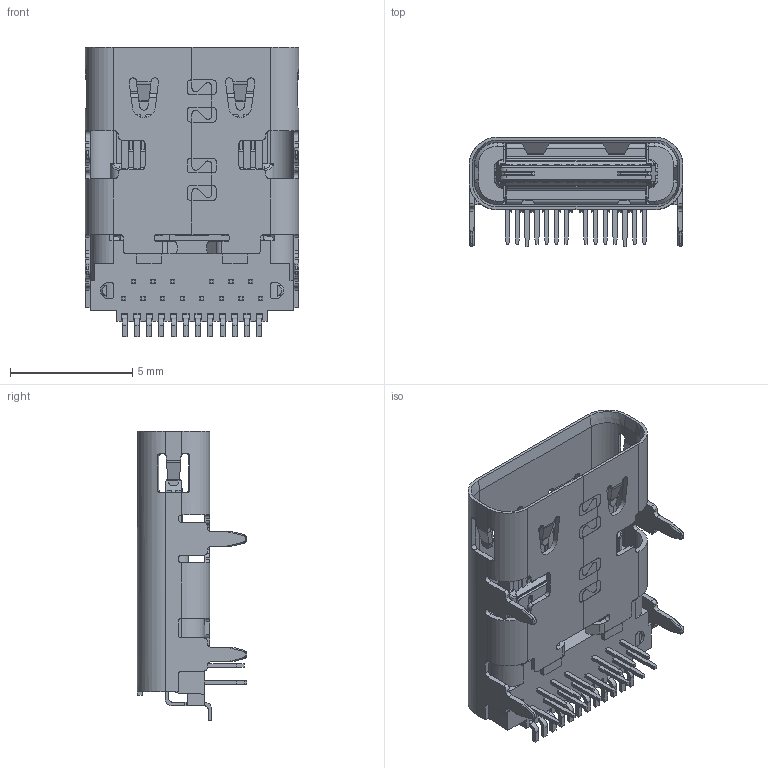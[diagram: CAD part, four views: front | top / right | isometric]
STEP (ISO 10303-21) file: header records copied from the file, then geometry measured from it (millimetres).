
FILE_DESCRIPTION((''),'2;1');
FILE_NAME('217B-AG01_C_5','2026-05-08T',('fros.liao'),(''),'CREO PARAMETRIC BY PTC INC, 2018360','CREO PARAMETRIC BY PTC INC, 2018360','');
FILE_SCHEMA(('CONFIG_CONTROL_DESIGN'));
Length unit declared in the file: millimetre
Products named in the file (1): 217B-AG01_C_5
Bounding box: 8.74 x 4.46 x 11.84 mm (x, y, z)
Volume: 143.4 mm3; surface area: 717.4 mm2
Topology: 1 solids, 3 shells, 1816 faces, 5011 edges, 3191 vertices
Faces by surface type: plane 1311, cylinder 391, bspline 70, cone 40, torus 4
Entity records: 58632 total; most frequent: CARTESIAN_POINT 12364, ORIENTED_EDGE 10014, DIRECTION 9126, EDGE_CURVE 5007, VECTOR 3984, LINE 3984, VERTEX_POINT 3191, AXIS2_PLACEMENT_3D 2571
